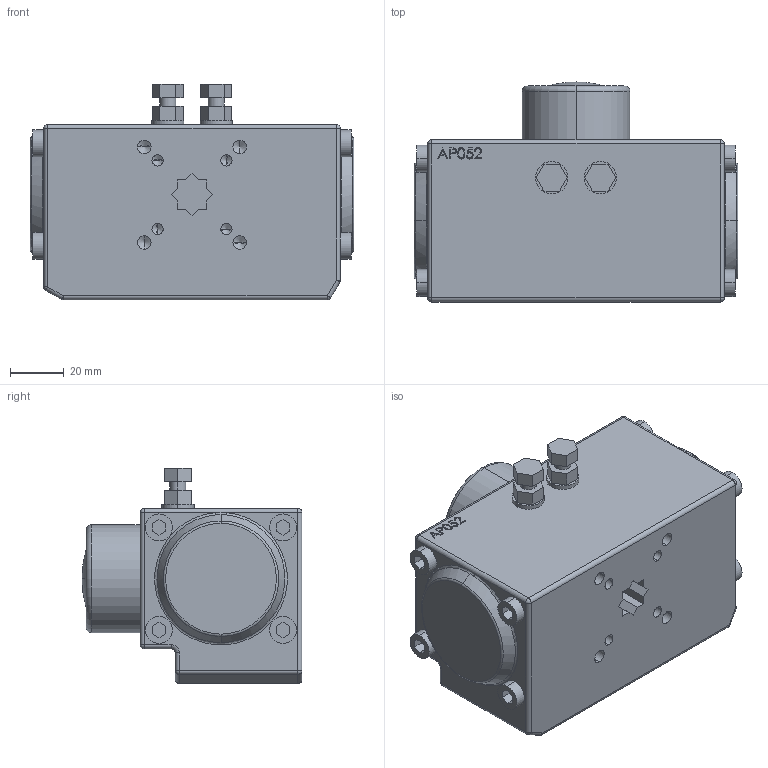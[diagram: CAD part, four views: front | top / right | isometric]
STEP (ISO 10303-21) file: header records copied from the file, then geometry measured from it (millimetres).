
FILE_DESCRIPTION (( 'STEP AP203' ), '1' );
FILE_NAME ('AP040.STEP', '2020-04-16T13:19:29', ( '' ), ( '' ), 'SwSTEP 2.0', 'SolidWorks 2017', '' );
FILE_SCHEMA (( 'CONFIG_CONTROL_DESIGN' ));
Length unit declared in the file: millimetre
Products named in the file (1): AP040
Bounding box: 120 x 81.5 x 80 mm (x, y, z)
Volume: 446504.9 mm3; surface area: 43941.7 mm2
Topology: 1 solids, 1 shells, 383 faces, 945 edges, 572 vertices
Faces by surface type: plane 190, cylinder 86, cone 40, bspline 40, sphere 16, torus 11
Entity records: 13292 total; most frequent: CARTESIAN_POINT 4549, ORIENTED_EDGE 1790, DIRECTION 1707, EDGE_CURVE 895, LINE 607, VECTOR 607, VERTEX_POINT 572, AXIS2_PLACEMENT_3D 550
